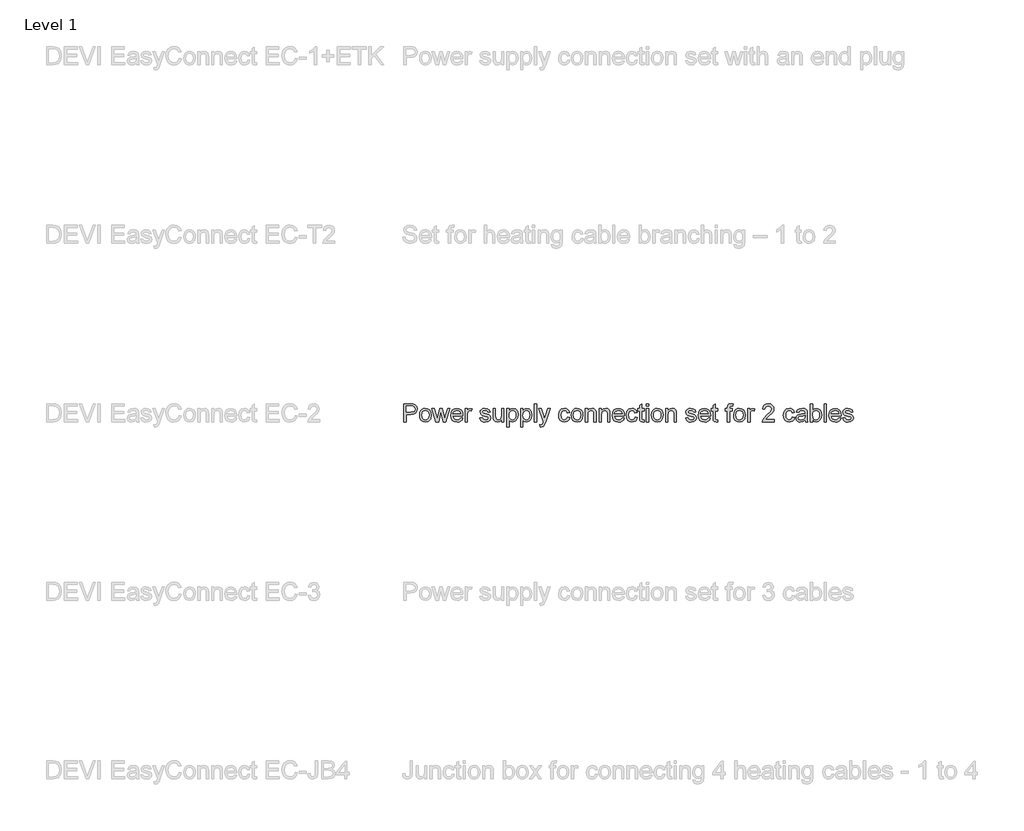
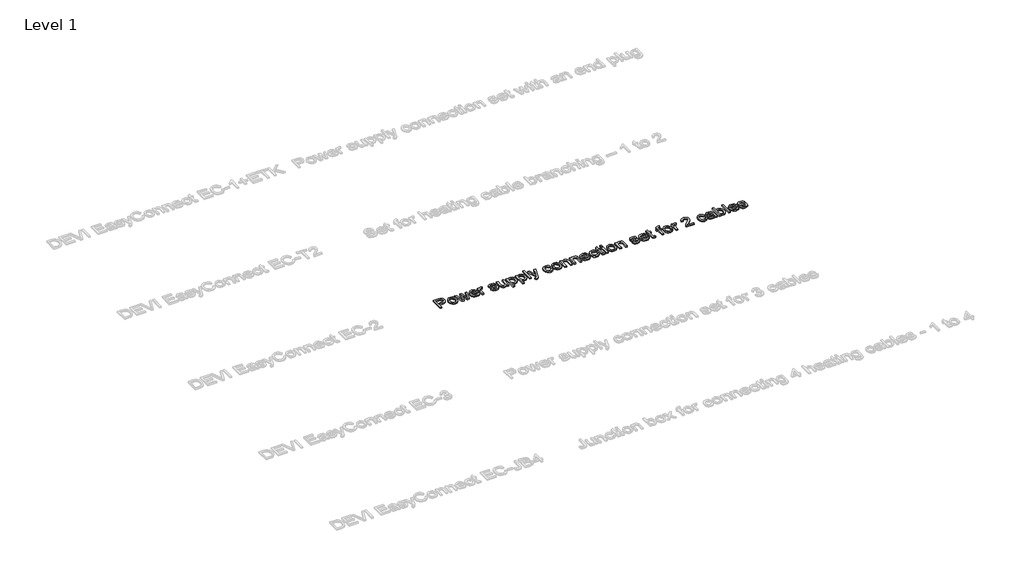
# One storey, part 5 of 11: 1 proxy.
"""IFC4 building model written with IfcOpenShell, lengths in millimetres."""

from ifc_helpers import new_model, si_unit, origin, origin_with_axes, place, context, project, spatial, polyline, outline, extrude, element, save

model = new_model("IFC4")

# Units and contexts
model_context = context("Model", 3, world=origin())
ifc_project = project(units=[si_unit("LENGTHUNIT", "METRE", prefix="MILLI")], contexts=[model_context])

# Site, building, storey
site = spatial("IfcSite", under=ifc_project)
building = spatial("IfcBuilding", under=site)
storey = spatial("IfcBuildingStorey", under=building, Name="Level 1", Elevation=0.0)

# Proxy
placement = place(None, origin())
element("IfcBuildingElementProxy", 1, Name="100mm Arial", ObjectType="100mm Arial", at=placement, inside=storey, context=model_context, shape_type="SweptSolid", body=[
    extrude(outline(polyline([(4544.9544754, 1516.7341496), (4544.9544754, 1617.1904598), (4582.1841333, 1617.1904598), (4597.1937187, 1616.2339666), (4609.3951382, 1611.5373398), (4617.3046011, 1601.8252551), (4620.296708, 1588.1277821), (4618.2764227, 1576.2881133), (4612.2155668, 1566.4227444), (4600.8817357, 1559.7640803), (4583.0425246, 1557.5445256), (4557.5115141, 1557.5445256), (4557.5115141, 1516.7341496), (4544.9544754, 1516.7341496)]), holes=[polyline([(4557.5115141, 1570.1015644), (4583.7782886, 1570.1015644), (4602.2704902, 1574.712352), (4606.3723745, 1580.2612388), (4607.7396692, 1587.6863237), (4604.5145704, 1598.0851215), (4596.0410218, 1603.7750297), (4583.483983, 1604.633421), (4557.5115141, 1604.633421), (4557.5115141, 1570.1015644)])]), origin_with_axes(), (0.0, 0.0, 1.0), 10.0),
    extrude(outline(polyline([(4632.8537467, 1553.620451), (4635.5699421, 1571.4075455), (4643.7185283, 1583.9094019), (4653.7862323, 1590.0346371), (4665.840499, 1592.0763822), (4679.0321342, 1589.5901131), (4689.5688877, 1582.1313056), (4696.4758721, 1570.2885711), (4698.7782003, 1554.6505206), (4694.7069729, 1532.3078207), (4682.8489099, 1519.6649428), (4665.840499, 1515.1645198), (4652.4894482, 1517.6415919), (4641.9649575, 1525.0728082), (4635.1315494, 1537.1638631), (4632.8537467, 1553.620451)]), holes=[polyline([(4645.4107855, 1553.6449765), (4646.8639194, 1542.2804885), (4651.223321, 1534.1840189), (4657.7838833, 1529.3371736), (4665.840499, 1527.7215585), (4673.8603265, 1529.3463707), (4680.408626, 1534.2208071), (4684.7680276, 1542.4245756), (4686.2211615, 1554.0373839), (4684.7588306, 1565.0707781), (4680.3718378, 1573.0568831), (4673.8143412, 1577.9037284), (4665.840499, 1579.5193435), (4657.7838833, 1577.9098597), (4651.223321, 1573.0814085), (4646.8639194, 1565.0033331), (4645.4107855, 1553.6449765)])]), origin_with_axes(), (0.0, 0.0, 1.0), 10.0),
    extrude(outline(polyline([(4725.1430766, 1516.7341496), (4702.7022749, 1590.5067524), (4715.749823, 1590.5067524), (4728.47854, 1547.4645589), (4732.2799873, 1532.0870915), (4735.3947215, 1546.9004732), (4745.5237391, 1590.5067524), (4760.4842736, 1590.5067524), (4770.5642403, 1547.0231005), (4773.335618, 1533.6076705), (4777.3087435, 1547.7588645), (4790.061986, 1590.5067524), (4803.158585, 1590.5067524), (4780.5461051, 1516.7341496), (4765.3648414, 1516.7341496), (4755.7263331, 1559.9970722), (4752.93043, 1573.4860787), (4740.4960185, 1516.7341496), (4725.1430766, 1516.7341496)])), origin_with_axes(), (0.0, 0.0, 1.0), 10.0),
    extrude(outline(polyline([(4863.4421813, 1538.7089675), (4875.7539654, 1537.1393376), (4871.3179217, 1527.86258), (4864.239259, 1520.9280044), (4854.6773928, 1516.6053909), (4842.7917387, 1515.1645198), (4828.0580647, 1517.6507889), (4816.7211679, 1525.1095964), (4809.4922867, 1537.0565642), (4807.0826597, 1553.0073143), (4809.5168122, 1569.4945591), (4816.8192698, 1581.8247373), (4828.0028824, 1589.513471), (4842.0805001, 1592.0763822), (4855.7197251, 1589.5196024), (4866.6182292, 1581.8492628), (4873.764337, 1569.54361), (4876.1463729, 1553.0808907), (4876.0727965, 1549.6963764), (4819.6396984, 1549.6963764), (4821.8132679, 1540.2969914), (4826.8624483, 1533.3869413), (4834.1495774, 1529.1379042), (4843.0369933, 1527.7215585), (4855.3487774, 1530.3457834), (4863.4421813, 1538.7089675)]), holes=[polyline([(4819.6396984, 1562.2534151), (4863.5893341, 1562.2534151), (4858.5616135, 1573.6332315), (4851.2407618, 1578.0478155), (4842.0314492, 1579.5193435), (4826.5681427, 1574.8227166), (4821.7029033, 1569.3320779), (4819.6396984, 1562.2534151)])]), origin_with_axes(), (0.0, 0.0, 1.0), 10.0),
    extrude(outline(polyline([(4888.7034116, 1516.7341496), (4888.7034116, 1590.5067524), (4899.6908206, 1590.5067524), (4899.6908206, 1579.5929199), (4907.4899189, 1589.6483611), (4915.3380681, 1592.0763822), (4927.9441578, 1588.2013585), (4923.7503031, 1576.9441695), (4914.9211352, 1579.5193435), (4907.8210127, 1577.0422714), (4903.2960641, 1570.1751408), (4901.2604504, 1555.5089119), (4901.2604504, 1516.7341496), (4888.7034116, 1516.7341496)])), origin_with_axes(), (0.0, 0.0, 1.0), 10.0),
    extrude(outline(polyline([(4970.3241636, 1538.7089675), (4982.8812024, 1540.2785973), (4988.6937379, 1530.9589201), (5002.0110662, 1527.7215585), (5014.8133596, 1530.68914), (5018.9826889, 1537.6543724), (5014.7888341, 1543.2952297), (5001.8639134, 1546.8759477), (4982.9547788, 1553.0195771), (4974.7019594, 1560.193276), (4971.8937935, 1570.3222936), (4974.1501364, 1579.678759), (4980.3060284, 1586.8279324), (4988.2890677, 1590.5435406), (4999.0925357, 1592.0763822), (5014.3719012, 1589.6115729), (5024.0839859, 1582.940646), (5028.400468, 1571.6711942), (5015.8434292, 1570.1015644), (5011.1222769, 1577.0300086), (5000.0735543, 1579.5193435), (4988.0560758, 1577.1403732), (4984.4508323, 1571.5976178), (4985.9468857, 1567.9433233), (4990.6312498, 1565.1719456), (5001.4469804, 1562.4986698), (5019.8778684, 1556.5880324), (5028.4372562, 1549.8925801), (5031.5397276, 1538.9787476), (5027.8976959, 1526.9612691), (5017.3885336, 1518.2424658), (5001.8393879, 1515.1645198), (4989.1781159, 1516.6483105), (4979.9381465, 1521.0996826), (4973.7699917, 1528.4695853), (4970.3241636, 1538.7089675)])), origin_with_axes(), (0.0, 0.0, 1.0), 10.0),
    extrude(outline(polyline([(5092.7552916, 1516.7341496), (5092.7552916, 1529.4138157), (5082.9205796, 1518.7268438), (5070.0937607, 1515.1645198), (5058.2847487, 1517.6661173), (5050.1422939, 1523.9446367), (5046.4021602, 1533.1907375), (5045.6663963, 1544.8648595), (5045.6663963, 1590.5067524), (5058.223435, 1590.5067524), (5058.223435, 1550.7754969), (5058.9837245, 1537.9732035), (5063.9501314, 1530.456148), (5073.3065968, 1527.7215585), (5083.7912337, 1530.5174617), (5090.7196779, 1538.132619), (5092.7552916, 1552.1243975), (5092.7552916, 1590.5067524), (5105.3123304, 1590.5067524), (5105.3123304, 1516.7341496), (5092.7552916, 1516.7341496)])), origin_with_axes(), (0.0, 0.0, 1.0), 10.0),
    extrude(outline(polyline([(5122.5782587, 1488.4808124), (5122.5782587, 1590.5067524), (5135.1352975, 1590.5067524), (5135.1352975, 1578.1949683), (5143.8173126, 1588.6060287), (5155.5404855, 1592.0763822), (5171.4575131, 1587.2203399), (5181.8563109, 1573.5351297), (5185.3634526, 1554.1845367), (5181.4025897, 1533.8406624), (5169.900146, 1519.9837739), (5154.0199066, 1515.1645198), (5143.0938113, 1518.3896186), (5135.1352975, 1526.5443361), (5135.1352975, 1488.4808124), (5122.5782587, 1488.4808124)]), holes=[polyline([(5135.1352975, 1553.0318398), (5136.4933952, 1541.7746507), (5140.5676883, 1533.9019761), (5146.5794932, 1529.2666629), (5153.7501264, 1527.7215585), (5161.0372556, 1529.3218452), (5167.2023447, 1534.1227052), (5171.4053965, 1542.2835542), (5172.8064138, 1553.9638075), (5171.439119, 1565.1596829), (5167.3372348, 1573.1427222), (5161.3346269, 1577.9251881), (5154.2651612, 1579.5193435), (5147.1681044, 1577.8240206), (5140.9355703, 1572.738052), (5136.5853657, 1564.4208532), (5135.1352975, 1553.0318398)])]), origin_with_axes(), (0.0, 0.0, 1.0), 10.0),
    extrude(outline(polyline([(5199.4901212, 1488.4808124), (5199.4901212, 1590.5067524), (5212.0471599, 1590.5067524), (5212.0471599, 1578.1949683), (5220.729175, 1588.6060287), (5232.4523479, 1592.0763822), (5248.3693756, 1587.2203399), (5258.7681733, 1573.5351297), (5262.275315, 1554.1845367), (5258.3144522, 1533.8406624), (5246.8120085, 1519.9837739), (5230.931769, 1515.1645198), (5220.0056738, 1518.3896186), (5212.0471599, 1526.5443361), (5212.0471599, 1488.4808124), (5199.4901212, 1488.4808124)]), holes=[polyline([(5212.0471599, 1553.0318398), (5213.4052576, 1541.7746507), (5217.4795507, 1533.9019761), (5223.4913557, 1529.2666629), (5230.6619889, 1527.7215585), (5237.9491181, 1529.3218452), (5244.1142072, 1534.1227052), (5248.317259, 1542.2835542), (5249.7182762, 1553.9638075), (5248.3509815, 1565.1596829), (5244.2490973, 1573.1427222), (5238.2464894, 1577.9251881), (5231.1770237, 1579.5193435), (5224.0799669, 1577.8240206), (5217.8474327, 1572.738052), (5213.4972281, 1564.4208532), (5212.0471599, 1553.0318398)])]), origin_with_axes(), (0.0, 0.0, 1.0), 10.0),
    extrude(outline(polyline([(5276.4019836, 1516.7341496), (5276.4019836, 1617.1904598), (5288.9590224, 1617.1904598), (5288.9590224, 1516.7341496), (5276.4019836, 1516.7341496)])), origin_with_axes(), (0.0, 0.0, 1.0), 10.0),
    extrude(outline(polyline([(5307.7945806, 1488.4808124), (5306.2249507, 1500.5718673), (5312.601572, 1499.4682213), (5318.5612603, 1500.8539102), (5322.2155548, 1504.7166711), (5325.6491201, 1513.9627719), (5326.6301387, 1517.0039297), (5299.9464313, 1590.5067524), (5313.1901832, 1590.5067524), (5327.3413772, 1549.5492236), (5332.270996, 1533.1662121), (5337.2006147, 1547.6362372), (5351.7442162, 1590.5067524), (5364.8898662, 1590.5067524), (5339.2117029, 1514.968316), (5332.5407761, 1498.5853045), (5325.2567126, 1489.7316112), (5315.4710515, 1486.9111825), (5307.7945806, 1488.4808124)])), origin_with_axes(), (0.0, 0.0, 1.0), 10.0),
    extrude(outline(polyline([(5461.6183055, 1543.417857), (5474.1753442, 1541.8482271), (5470.6743339, 1530.6799429), (5464.0953776, 1522.2401168), (5455.0577432, 1516.933419), (5444.1806989, 1515.1645198), (5430.8235168, 1517.6323948), (5420.3787338, 1525.03602), (5413.6372963, 1537.0504328), (5411.3901504, 1553.3506709), (5415.2283859, 1574.20958), (5426.9270333, 1587.6127473), (5444.0090206, 1592.0763822), (5454.6193505, 1590.5435406), (5463.1020962, 1585.9450156), (5469.1874775, 1578.5260621), (5472.6057144, 1568.5319345), (5460.0486756, 1566.9623047), (5454.2238774, 1576.367821), (5444.1071225, 1579.5193435), (5435.9922588, 1577.9681077), (5429.5512582, 1573.3144005), (5425.3482064, 1565.3068357), (5423.9471892, 1553.6940274), (5425.3175496, 1541.9248692), (5429.4286309, 1533.8897133), (5435.7531355, 1529.2635972), (5443.763766, 1527.7215585), (5455.5973035, 1531.5720567), (5461.6183055, 1543.417857)])), origin_with_axes(), (0.0, 0.0, 1.0), 10.0),
    extrude(outline(polyline([(5482.0234935, 1553.620451), (5484.7396889, 1571.4075455), (5492.8882751, 1583.9094019), (5502.955979, 1590.0346371), (5515.0102457, 1592.0763822), (5528.2018809, 1589.5901131), (5538.7386344, 1582.1313056), (5545.6456189, 1570.2885711), (5547.947947, 1554.6505206), (5543.8767196, 1532.3078207), (5532.0186566, 1519.6649428), (5515.0102457, 1515.1645198), (5501.659195, 1517.6415919), (5491.1347042, 1525.0728082), (5484.3012962, 1537.1638631), (5482.0234935, 1553.620451)]), holes=[polyline([(5494.5805322, 1553.6449765), (5496.0336661, 1542.2804885), (5500.3930678, 1534.1840189), (5506.95363, 1529.3371736), (5515.0102457, 1527.7215585), (5523.0300732, 1529.3463707), (5529.5783727, 1534.2208071), (5533.9377744, 1542.4245756), (5535.3909082, 1554.0373839), (5533.9285773, 1565.0707781), (5529.5415845, 1573.0568831), (5522.984088, 1577.9037284), (5515.0102457, 1579.5193435), (5506.95363, 1577.9098597), (5500.3930678, 1573.0814085), (5496.0336661, 1565.0033331), (5494.5805322, 1553.6449765)])]), origin_with_axes(), (0.0, 0.0, 1.0), 10.0),
    extrude(outline(polyline([(5562.0746156, 1516.7341496), (5562.0746156, 1590.5067524), (5574.6316544, 1590.5067524), (5574.6316544, 1580.2060565), (5584.2333745, 1589.1088008), (5597.3422362, 1592.0763822), (5609.2002992, 1589.6851493), (5617.2937031, 1583.4066299), (5621.0583622, 1574.1727918), (5621.7205498, 1562.0326859), (5621.7205498, 1516.7341496), (5609.163511, 1516.7341496), (5609.163511, 1560.3404288), (5607.7165085, 1571.450465), (5602.6029488, 1577.3243142), (5593.9822473, 1579.5193435), (5580.3583508, 1574.5897247), (5576.0633285, 1567.4466826), (5574.6316544, 1555.8767939), (5574.6316544, 1516.7341496), (5562.0746156, 1516.7341496)])), origin_with_axes(), (0.0, 0.0, 1.0), 10.0),
    extrude(outline(polyline([(5638.9864781, 1516.7341496), (5638.9864781, 1590.5067524), (5651.5435168, 1590.5067524), (5651.5435168, 1580.2060565), (5661.1452369, 1589.1088008), (5674.2540987, 1592.0763822), (5686.1121617, 1589.6851493), (5694.2055656, 1583.4066299), (5697.9702246, 1574.1727918), (5698.6324122, 1562.0326859), (5698.6324122, 1516.7341496), (5686.0753735, 1516.7341496), (5686.0753735, 1560.3404288), (5684.6283709, 1571.450465), (5679.5148112, 1577.3243142), (5670.8941098, 1579.5193435), (5657.2702132, 1574.5897247), (5652.9751909, 1567.4466826), (5651.5435168, 1555.8767939), (5651.5435168, 1516.7341496), (5638.9864781, 1516.7341496)])), origin_with_axes(), (0.0, 0.0, 1.0), 10.0),
    extrude(outline(polyline([(5767.5489727, 1538.7089675), (5779.8607568, 1537.1393376), (5775.424713, 1527.86258), (5768.3460503, 1520.9280044), (5758.7841841, 1516.6053909), (5746.89853, 1515.1645198), (5732.1648561, 1517.6507889), (5720.8279593, 1525.1095964), (5713.5990781, 1537.0565642), (5711.189451, 1553.0073143), (5713.6236035, 1569.4945591), (5720.9260611, 1581.8247373), (5732.1096738, 1589.513471), (5746.1872915, 1592.0763822), (5759.8265164, 1589.5196024), (5770.7250206, 1581.8492628), (5777.8711283, 1569.54361), (5780.2531642, 1553.0808907), (5780.1795878, 1549.6963764), (5723.7464898, 1549.6963764), (5725.9200592, 1540.2969914), (5730.9692396, 1533.3869413), (5738.2563688, 1529.1379042), (5747.1437847, 1527.7215585), (5759.4555688, 1530.3457834), (5767.5489727, 1538.7089675)]), holes=[polyline([(5723.7464898, 1562.2534151), (5767.6961255, 1562.2534151), (5762.6684049, 1573.6332315), (5755.3475532, 1578.0478155), (5746.1382405, 1579.5193435), (5730.674934, 1574.8227166), (5725.8096946, 1569.3320779), (5723.7464898, 1562.2534151)])]), origin_with_axes(), (0.0, 0.0, 1.0), 10.0),
    extrude(outline(polyline([(5839.8990984, 1543.417857), (5852.4561371, 1541.8482271), (5848.9551268, 1530.6799429), (5842.3761705, 1522.2401168), (5833.3385361, 1516.933419), (5822.4614918, 1515.1645198), (5809.1043097, 1517.6323948), (5798.6595267, 1525.03602), (5791.9180892, 1537.0504328), (5789.6709433, 1553.3506709), (5793.5091788, 1574.20958), (5805.2078262, 1587.6127473), (5822.2898135, 1592.0763822), (5832.9001434, 1590.5435406), (5841.3828891, 1585.9450156), (5847.4682704, 1578.5260621), (5850.8865073, 1568.5319345), (5838.3294685, 1566.9623047), (5832.5046703, 1576.367821), (5822.3879154, 1579.5193435), (5814.2730517, 1577.9681077), (5807.8320511, 1573.3144005), (5803.6289993, 1565.3068357), (5802.2279821, 1553.6940274), (5803.5983425, 1541.9248692), (5807.7094238, 1533.8897133), (5814.0339284, 1529.2635972), (5822.0445589, 1527.7215585), (5833.8780964, 1531.5720567), (5839.8990984, 1543.417857)])), origin_with_axes(), (0.0, 0.0, 1.0), 10.0),
    extrude(outline(polyline([(5890.1272535, 1527.2065237), (5891.6968833, 1516.3662676), (5882.3036297, 1515.1645198), (5871.7822046, 1517.2491844), (5866.5337548, 1522.7183634), (5865.0131759, 1536.9676593), (5865.0131759, 1577.9497136), (5855.5953968, 1577.9497136), (5855.5953968, 1590.5067524), (5865.0131759, 1590.5067524), (5865.0131759, 1608.4348683), (5877.5702147, 1615.8170336), (5877.5702147, 1590.5067524), (5890.1272535, 1590.5067524), (5890.1272535, 1577.9497136), (5877.5702147, 1577.9497136), (5877.5702147, 1537.3355413), (5878.2324023, 1530.8608182), (5880.3783806, 1528.5676871), (5884.6580745, 1527.7215585), (5890.1272535, 1527.2065237)])), origin_with_axes(), (0.0, 0.0, 1.0), 10.0),
    extrude(outline(polyline([(5902.6842922, 1604.633421), (5902.6842922, 1617.1904598), (5915.241331, 1617.1904598), (5915.241331, 1604.633421), (5902.6842922, 1604.633421)])), origin_with_axes(), (0.0, 0.0, 1.0), 10.0),
    extrude(outline(polyline([(5902.6842922, 1516.7341496), (5902.6842922, 1590.5067524), (5915.241331, 1590.5067524), (5915.241331, 1516.7341496), (5902.6842922, 1516.7341496)])), origin_with_axes(), (0.0, 0.0, 1.0), 10.0),
    extrude(outline(polyline([(5930.9376295, 1553.620451), (5933.6538248, 1571.4075455), (5941.802411, 1583.9094019), (5951.870115, 1590.0346371), (5963.9243817, 1592.0763822), (5977.1160169, 1589.5901131), (5987.6527704, 1582.1313056), (5994.5597548, 1570.2885711), (5996.862083, 1554.6505206), (5992.7908556, 1532.3078207), (5980.9327926, 1519.6649428), (5963.9243817, 1515.1645198), (5950.5733309, 1517.6415919), (5940.0488402, 1525.0728082), (5933.2154321, 1537.1638631), (5930.9376295, 1553.620451)]), holes=[polyline([(5943.4946682, 1553.6449765), (5944.9478021, 1542.2804885), (5949.3072037, 1534.1840189), (5955.867766, 1529.3371736), (5963.9243817, 1527.7215585), (5971.9442092, 1529.3463707), (5978.4925087, 1534.2208071), (5982.8519103, 1542.4245756), (5984.3050442, 1554.0373839), (5982.8427133, 1565.0707781), (5978.4557205, 1573.0568831), (5971.8982239, 1577.9037284), (5963.9243817, 1579.5193435), (5955.867766, 1577.9098597), (5949.3072037, 1573.0814085), (5944.9478021, 1565.0033331), (5943.4946682, 1553.6449765)])]), origin_with_axes(), (0.0, 0.0, 1.0), 10.0),
    extrude(outline(polyline([(6010.9887516, 1516.7341496), (6010.9887516, 1590.5067524), (6023.5457904, 1590.5067524), (6023.5457904, 1580.2060565), (6033.1475104, 1589.1088008), (6046.2563722, 1592.0763822), (6058.1144352, 1589.6851493), (6066.2078391, 1583.4066299), (6069.9724982, 1574.1727918), (6070.6346858, 1562.0326859), (6070.6346858, 1516.7341496), (6058.077647, 1516.7341496), (6058.077647, 1560.3404288), (6056.6306445, 1571.450465), (6051.5170847, 1577.3243142), (6042.8963833, 1579.5193435), (6029.2724868, 1574.5897247), (6024.9774645, 1567.4466826), (6023.5457904, 1555.8767939), (6023.5457904, 1516.7341496), (6010.9887516, 1516.7341496)])), origin_with_axes(), (0.0, 0.0, 1.0), 10.0),
    extrude(outline(polyline([(6122.4324707, 1538.7089675), (6134.9895094, 1540.2785973), (6140.802045, 1530.9589201), (6154.1193732, 1527.7215585), (6166.9216666, 1530.68914), (6171.0909959, 1537.6543724), (6166.8971412, 1543.2952297), (6153.9722204, 1546.8759477), (6135.0630858, 1553.0195771), (6126.8102664, 1560.193276), (6124.0021005, 1570.3222936), (6126.2584434, 1579.678759), (6132.4143355, 1586.8279324), (6140.3973748, 1590.5435406), (6151.2008427, 1592.0763822), (6166.4802082, 1589.6115729), (6176.1922929, 1582.940646), (6180.508775, 1571.6711942), (6167.9517362, 1570.1015644), (6163.2305839, 1577.0300086), (6152.1818614, 1579.5193435), (6140.1643828, 1577.1403732), (6136.5591393, 1571.5976178), (6138.0551927, 1567.9433233), (6142.7395568, 1565.1719456), (6153.5552875, 1562.4986698), (6171.9861754, 1556.5880324), (6180.5455632, 1549.8925801), (6183.6480347, 1538.9787476), (6180.0060029, 1526.9612691), (6169.4968406, 1518.2424658), (6153.9476949, 1515.1645198), (6141.2864229, 1516.6483105), (6132.0464535, 1521.0996826), (6125.8782987, 1528.4695853), (6122.4324707, 1538.7089675)])), origin_with_axes(), (0.0, 0.0, 1.0), 10.0),
    extrude(outline(polyline([(6249.4253354, 1538.7089675), (6261.7371195, 1537.1393376), (6257.3010758, 1527.86258), (6250.2224131, 1520.9280044), (6240.6605469, 1516.6053909), (6228.7748927, 1515.1645198), (6214.0412188, 1517.6507889), (6202.704322, 1525.1095964), (6195.4754408, 1537.0565642), (6193.0658137, 1553.0073143), (6195.4999663, 1569.4945591), (6202.8024239, 1581.8247373), (6213.9860365, 1589.513471), (6228.0636542, 1592.0763822), (6241.7028792, 1589.5196024), (6252.6013833, 1581.8492628), (6259.7474911, 1569.54361), (6262.129527, 1553.0808907), (6262.0559506, 1549.6963764), (6205.6228525, 1549.6963764), (6207.796422, 1540.2969914), (6212.8456024, 1533.3869413), (6220.1327315, 1529.1379042), (6229.0201474, 1527.7215585), (6241.3319315, 1530.3457834), (6249.4253354, 1538.7089675)]), holes=[polyline([(6205.6228525, 1562.2534151), (6249.5724882, 1562.2534151), (6244.5447676, 1573.6332315), (6237.2239159, 1578.0478155), (6228.0146033, 1579.5193435), (6212.5512968, 1574.8227166), (6207.6860574, 1569.3320779), (6205.6228525, 1562.2534151)])]), origin_with_axes(), (0.0, 0.0, 1.0), 10.0),
    extrude(outline(polyline([(6301.3702731, 1527.2065237), (6302.939903, 1516.3662676), (6293.5466494, 1515.1645198), (6283.0252243, 1517.2491844), (6277.7767745, 1522.7183634), (6276.2561956, 1536.9676593), (6276.2561956, 1577.9497136), (6266.8384165, 1577.9497136), (6266.8384165, 1590.5067524), (6276.2561956, 1590.5067524), (6276.2561956, 1608.4348683), (6288.8132344, 1615.8170336), (6288.8132344, 1590.5067524), (6301.3702731, 1590.5067524), (6301.3702731, 1577.9497136), (6288.8132344, 1577.9497136), (6288.8132344, 1537.3355413), (6289.475422, 1530.8608182), (6291.6214003, 1528.5676871), (6295.9010941, 1527.7215585), (6301.3702731, 1527.2065237)])), origin_with_axes(), (0.0, 0.0, 1.0), 10.0),
    extrude(outline(polyline([(6356.3073177, 1516.7341496), (6356.3073177, 1577.9497136), (6345.3199088, 1577.9497136), (6345.3199088, 1590.5067524), (6356.3073177, 1590.5067524), (6356.3073177, 1597.9379687), (6357.6316929, 1608.4103428), (6364.0573651, 1615.89061), (6376.7125057, 1618.7600896), (6388.1658985, 1617.3866635), (6386.3264885, 1605.6144396), (6379.091476, 1606.2030508), (6371.1820131, 1604.1183862), (6368.8643565, 1596.3438134), (6368.8643565, 1590.5067524), (6382.9910251, 1590.5067524), (6382.9910251, 1577.9497136), (6368.8643565, 1577.9497136), (6368.8643565, 1516.7341496), (6356.3073177, 1516.7341496)])), origin_with_axes(), (0.0, 0.0, 1.0), 10.0),
    extrude(outline(polyline([(6390.8391744, 1553.620451), (6393.5553698, 1571.4075455), (6401.7039559, 1583.9094019), (6411.7716599, 1590.0346371), (6423.8259266, 1592.0763822), (6437.0175618, 1589.5901131), (6447.5543153, 1582.1313056), (6454.4612997, 1570.2885711), (6456.7636279, 1554.6505206), (6452.6924005, 1532.3078207), (6440.8343375, 1519.6649428), (6423.8259266, 1515.1645198), (6410.4748758, 1517.6415919), (6399.9503851, 1525.0728082), (6393.116977, 1537.1638631), (6390.8391744, 1553.620451)]), holes=[polyline([(6403.3962131, 1553.6449765), (6404.849347, 1542.2804885), (6409.2087486, 1534.1840189), (6415.7693109, 1529.3371736), (6423.8259266, 1527.7215585), (6431.8457541, 1529.3463707), (6438.3940536, 1534.2208071), (6442.7534552, 1542.4245756), (6444.2065891, 1554.0373839), (6442.7442582, 1565.0707781), (6438.3572654, 1573.0568831), (6431.7997688, 1577.9037284), (6423.8259266, 1579.5193435), (6415.7693109, 1577.9098597), (6409.2087486, 1573.0814085), (6404.849347, 1565.0033331), (6403.3962131, 1553.6449765)])]), origin_with_axes(), (0.0, 0.0, 1.0), 10.0),
    extrude(outline(polyline([(6470.8902965, 1516.7341496), (6470.8902965, 1590.5067524), (6481.8777054, 1590.5067524), (6481.8777054, 1579.5929199), (6489.6768037, 1589.6483611), (6497.524953, 1592.0763822), (6510.1310427, 1588.2013585), (6505.9371879, 1576.9441695), (6497.10802, 1579.5193435), (6490.0078975, 1577.0422714), (6485.482949, 1570.1751408), (6483.4473353, 1555.5089119), (6483.4473353, 1516.7341496), (6470.8902965, 1516.7341496)])), origin_with_axes(), (0.0, 0.0, 1.0), 10.0),
    extrude(outline(polyline([(6618.435502, 1529.2911884), (6618.435502, 1516.7341496), (6552.5110485, 1516.7341496), (6553.8599492, 1525.3916392), (6561.4873692, 1538.7212302), (6577.2081931, 1553.2770945), (6598.8887054, 1574.1973173), (6604.3088334, 1588.4220877), (6599.1952737, 1599.9367942), (6585.8411573, 1604.633421), (6571.9229551, 1600.0471588), (6566.6377171, 1587.3674927), (6554.0806783, 1588.9371225), (6557.1249019, 1601.0833597), (6563.7069239, 1609.9554472), (6573.4833879, 1615.3817066), (6586.1109374, 1617.1904598), (6598.8304574, 1615.1793715), (6608.5885273, 1609.1461068), (6614.796536, 1600.1329979), (6616.8658722, 1589.1823772), (6614.6340548, 1577.2752633), (6607.2151012, 1564.9634792), (6589.2256716, 1547.7588645), (6574.7801719, 1535.6800724), (6569.1147892, 1529.2911884), (6618.435502, 1529.2911884)])), origin_with_axes(), (0.0, 0.0, 1.0), 10.0),
    extrude(outline(polyline([(6720.461442, 1543.417857), (6733.0184808, 1541.8482271), (6729.5174705, 1530.6799429), (6722.9385141, 1522.2401168), (6713.9008798, 1516.933419), (6703.0238355, 1515.1645198), (6689.6666534, 1517.6323948), (6679.2218704, 1525.03602), (6672.4804328, 1537.0504328), (6670.233287, 1553.3506709), (6674.0715224, 1574.20958), (6685.7701699, 1587.6127473), (6702.8521572, 1592.0763822), (6713.4624871, 1590.5435406), (6721.9452327, 1585.9450156), (6728.0306141, 1578.5260621), (6731.448851, 1568.5319345), (6718.8918122, 1566.9623047), (6713.0670139, 1576.367821), (6702.9502591, 1579.5193435), (6694.8353954, 1577.9681077), (6688.3943948, 1573.3144005), (6684.191343, 1565.3068357), (6682.7903257, 1553.6940274), (6684.1606862, 1541.9248692), (6688.2717675, 1533.8897133), (6694.5962721, 1529.2635972), (6702.6069025, 1527.7215585), (6714.44044, 1531.5720567), (6720.461442, 1543.417857)])), origin_with_axes(), (0.0, 0.0, 1.0), 10.0),
    extrude(outline(polyline([(6791.0947851, 1526.1519287), (6778.9178911, 1517.6415919), (6765.4656728, 1515.1645198), (6754.9718389, 1516.6544418), (6747.2309885, 1521.1242081), (6742.4577197, 1527.9116309), (6740.86663, 1536.3545227), (6743.2701257, 1546.2873366), (6749.5854333, 1553.4978237), (6758.377813, 1557.618102), (6769.2425946, 1559.5065629), (6791.0212087, 1563.823045), (6791.0947851, 1566.6189482), (6787.6366944, 1575.8895744), (6773.7552804, 1579.5193435), (6761.0510888, 1577.103585), (6754.9932986, 1568.5319345), (6742.4362599, 1570.1015644), (6747.8686507, 1582.3642975), (6758.8070087, 1589.5502592), (6775.3739612, 1592.0763822), (6790.592013, 1589.8445648), (6799.188189, 1584.2404957), (6803.0386872, 1575.7178962), (6803.6518239, 1564.7304872), (6803.6518239, 1549.1077652), (6804.289486, 1527.2923629), (6806.7910836, 1516.7341496), (6794.2340448, 1516.7341496), (6791.0947851, 1526.1519287)]), holes=[polyline([(6791.0947851, 1551.2660062), (6770.8367499, 1547.415508), (6760.033282, 1545.3798943), (6755.1404514, 1542.0689563), (6753.4236688, 1537.2374395), (6757.1638024, 1530.4438853), (6768.1389486, 1527.7215585), (6780.8431402, 1530.7259282), (6789.0346459, 1537.9977289), (6791.0212087, 1547.7098136), (6791.0947851, 1551.2660062)])]), origin_with_axes(), (0.0, 0.0, 1.0), 10.0),
    extrude(outline(polyline([(6833.474791, 1516.7341496), (6820.9177522, 1516.7341496), (6820.9177522, 1617.1904598), (6833.474791, 1617.1904598), (6833.474791, 1579.9362764), (6842.2671706, 1589.0413558), (6853.1932659, 1592.0763822), (6865.7748301, 1589.3417927), (6875.5359657, 1581.653059), (6881.5324423, 1569.6968942), (6883.702946, 1554.724097), (6881.4558002, 1537.9609407), (6874.7143626, 1525.4897411), (6864.8214026, 1517.7458251), (6853.1196895, 1515.1645198), (6841.9544709, 1518.4938518), (6833.474791, 1528.481848), (6833.474791, 1516.7341496)]), holes=[polyline([(6833.474791, 1554.1354858), (6836.9083562, 1536.5752519), (6843.4873126, 1529.9349819), (6852.040569, 1527.7215585), (6859.2878443, 1529.352502), (6865.4805245, 1534.2453326), (6869.7295616, 1542.3693933), (6871.1459073, 1553.6940274), (6869.7878096, 1565.1842084), (6865.7135165, 1573.2162986), (6859.7139743, 1577.9435822), (6852.5801292, 1579.5193435), (6845.3328539, 1577.8883999), (6839.1401737, 1572.9955694), (6834.8911366, 1565.0186615), (6833.474791, 1554.1354858)])]), origin_with_axes(), (0.0, 0.0, 1.0), 10.0),
    extrude(outline(polyline([(6897.8296146, 1516.7341496), (6897.8296146, 1617.1904598), (6910.3866534, 1617.1904598), (6910.3866534, 1516.7341496), (6897.8296146, 1516.7341496)])), origin_with_axes(), (0.0, 0.0, 1.0), 10.0),
    extrude(outline(polyline([(6980.8728437, 1538.7089675), (6993.1846278, 1537.1393376), (6988.7485841, 1527.86258), (6981.6699213, 1520.9280044), (6972.1080552, 1516.6053909), (6960.222401, 1515.1645198), (6945.4887271, 1517.6507889), (6934.1518303, 1525.1095964), (6926.9229491, 1537.0565642), (6924.513322, 1553.0073143), (6926.9474746, 1569.4945591), (6934.2499322, 1581.8247373), (6945.4335448, 1589.513471), (6959.5111625, 1592.0763822), (6973.1503875, 1589.5196024), (6984.0488916, 1581.8492628), (6991.1949993, 1569.54361), (6993.5770353, 1553.0808907), (6993.5034589, 1549.6963764), (6937.0703608, 1549.6963764), (6939.2439302, 1540.2969914), (6944.2931106, 1533.3869413), (6951.5802398, 1529.1379042), (6960.4676557, 1527.7215585), (6972.7794398, 1530.3457834), (6980.8728437, 1538.7089675)]), holes=[polyline([(6937.0703608, 1562.2534151), (6981.0199965, 1562.2534151), (6975.9922759, 1573.6332315), (6968.6714242, 1578.0478155), (6959.4621116, 1579.5193435), (6943.998805, 1574.8227166), (6939.1335657, 1569.3320779), (6937.0703608, 1562.2534151)])]), origin_with_axes(), (0.0, 0.0, 1.0), 10.0),
    extrude(outline(polyline([(7001.4251845, 1538.7089675), (7013.9822233, 1540.2785973), (7019.7947588, 1530.9589201), (7033.112087, 1527.7215585), (7045.9143804, 1530.68914), (7050.0837097, 1537.6543724), (7045.889855, 1543.2952297), (7032.9649342, 1546.8759477), (7014.0557997, 1553.0195771), (7005.8029802, 1560.193276), (7002.9948143, 1570.3222936), (7005.2511572, 1579.678759), (7011.4070493, 1586.8279324), (7019.3900886, 1590.5435406), (7030.1935565, 1592.0763822), (7045.472922, 1589.6115729), (7055.1850067, 1582.940646), (7059.5014888, 1571.6711942), (7046.94445, 1570.1015644), (7042.2232977, 1577.0300086), (7031.1745752, 1579.5193435), (7019.1570967, 1577.1403732), (7015.5518531, 1571.5976178), (7017.0479065, 1567.9433233), (7021.7322706, 1565.1719456), (7032.5480013, 1562.4986698), (7050.9788892, 1556.5880324), (7059.538277, 1549.8925801), (7062.6407485, 1538.9787476), (7058.9987167, 1526.9612691), (7048.4895544, 1518.2424658), (7032.9404087, 1515.1645198), (7020.2791367, 1516.6483105), (7011.0391673, 1521.0996826), (7004.8710125, 1528.4695853), (7001.4251845, 1538.7089675)])), origin_with_axes(), (0.0, 0.0, 1.0), 10.0),
])

save(model, "model.ifc")
